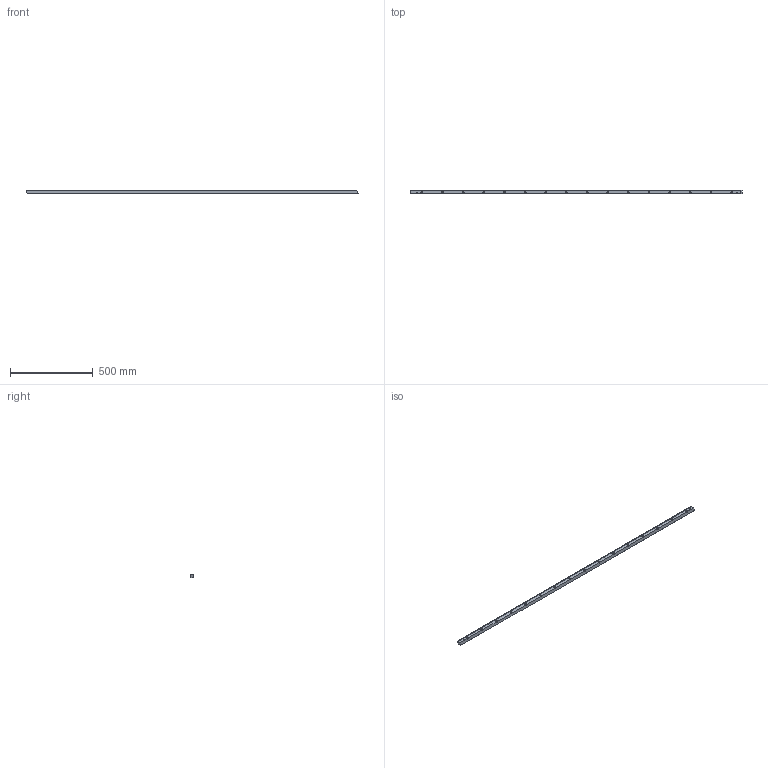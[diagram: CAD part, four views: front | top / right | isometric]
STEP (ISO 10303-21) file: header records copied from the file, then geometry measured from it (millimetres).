
FILE_DESCRIPTION (( 'STEP AP214' ), '1' );
FILE_NAME ('1HR16R020200H.STEP', '2021-12-06T11:03:31', ( '' ), ( '' ), 'SwSTEP 2.0', 'SolidWorks 2021', '' );
FILE_SCHEMA (( 'AUTOMOTIVE_DESIGN' ));
Products named in the file (1): 1HR16R020200H
Bounding box: 2008.52 x 24 x 24 mm (x, y, z)
Volume: 1021994.8 mm3; surface area: 235949 mm2
Topology: 1 solids, 1 shells, 3159 faces, 9355 edges, 6214 vertices
Faces by surface type: plane 1823, cylinder 1268, cone 68
Entity records: 103535 total; most frequent: CARTESIAN_POINT 25929, ORIENTED_EDGE 18710, DIRECTION 13479, EDGE_CURVE 9355, VECTOR 6751, LINE 6751, VERTEX_POINT 6214, AXIS2_PLACEMENT_3D 3364
